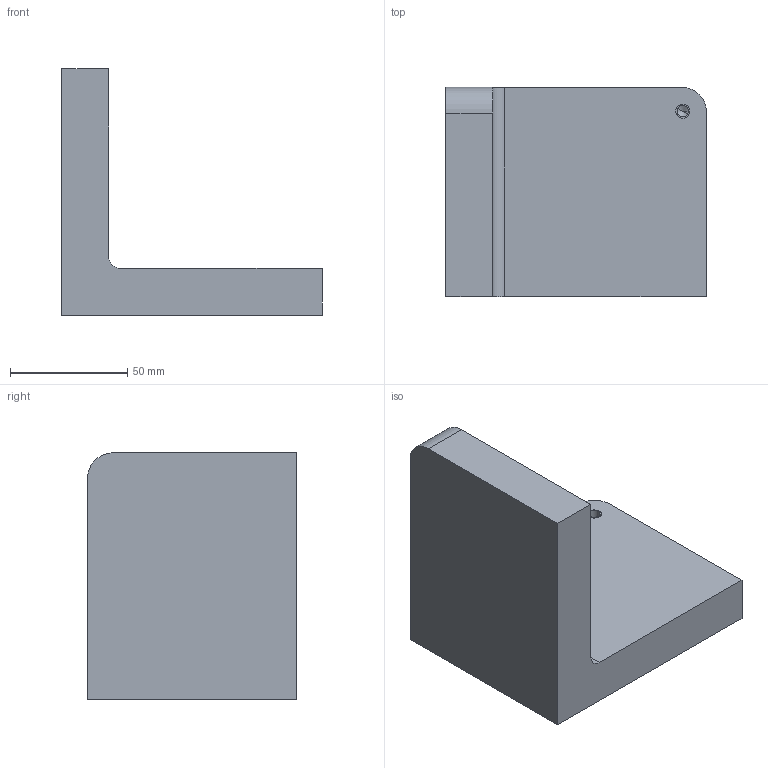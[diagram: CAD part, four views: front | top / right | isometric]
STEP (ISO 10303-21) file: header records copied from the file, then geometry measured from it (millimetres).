
FILE_DESCRIPTION(('CATIA V5 STEP Exchange'),'2;1');
FILE_NAME('C:\_Andres\UNIVERSIDAD\IQS\ASIGNATURAS\DAO\EXF\EXF-16172c\2inicio\Espinel_Roig_Ej01_v11.stp','2017-03-05T15:11:06+00:00',('none'),('none'),'CATIA Version 5-6 Release 2014 SP1 HF18','CATIA V5 STEP AP203','none');
FILE_SCHEMA(('CONFIG_CONTROL_DESIGN'));
Length unit declared in the file: millimetre
Products named in the file (1): Espinel_Roig_Ej01_v11
Bounding box: 111 x 89 x 105 mm (x, y, z)
Volume: 348096.1 mm3; surface area: 46308.9 mm2
Topology: 1 solids, 2 shells, 17 faces, 43 edges, 27 vertices
Faces by surface type: plane 8, cylinder 7, cone 2
Entity records: 513 total; most frequent: CARTESIAN_POINT 83, ORIENTED_EDGE 78, DIRECTION 69, EDGE_CURVE 41, AXIS2_PLACEMENT_3D 29, VECTOR 27, LINE 27, VERTEX_POINT 27
